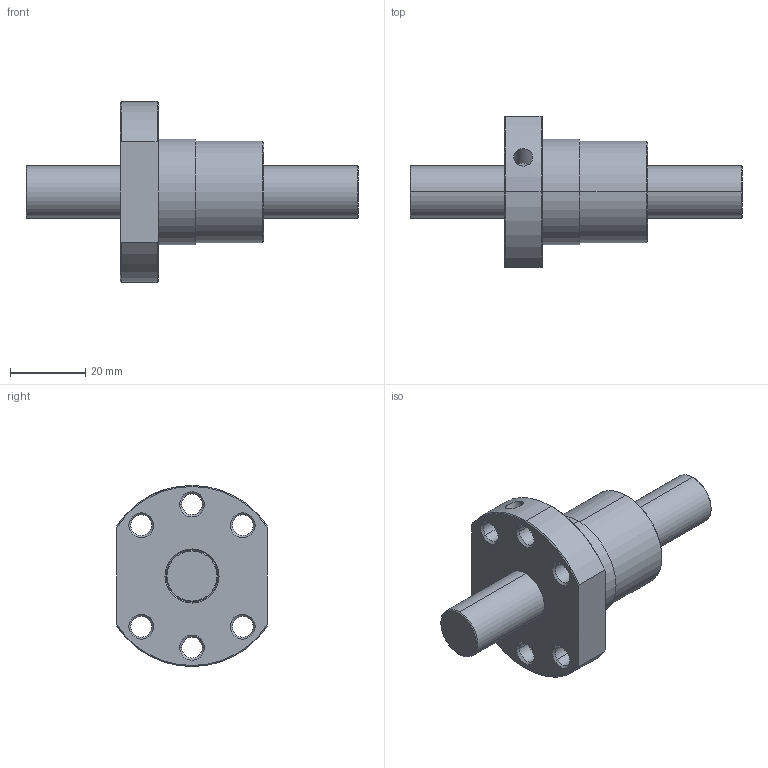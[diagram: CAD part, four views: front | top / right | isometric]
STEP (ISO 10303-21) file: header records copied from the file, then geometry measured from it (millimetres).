
FILE_DESCRIPTION(('no description'),'unknown implementation level');
FILE_NAME('R15_05K4_FSCDIN_88_88_0_052_1.stp',' ',('HIWIN GmbH'),('CADClick - KiM GmbH - www.kimweb.de'),'unknown preprocess','ACIS','unknown authorization');
FILE_SCHEMA(('automotive_design'));
Length unit declared in the file: millimetre
Products named in the file (2): 1; 2
Bounding box: 88 x 40 x 48 mm (x, y, z)
Volume: 38918.1 mm3; surface area: 13453.9 mm2
Topology: 2 solids, 2 shells, 78 faces, 176 edges, 103 vertices
Faces by surface type: cone 44, cylinder 26, plane 8
Entity records: 4297 total; most frequent: CARTESIAN_POINT 440, DIRECTION 416, STYLED_ITEM 357, PRESENTATION_STYLE_ASSIGNMENT 357, COLOUR_RGB 357, ORIENTED_EDGE 348, EDGE_CURVE 174, CURVE_STYLE 174
